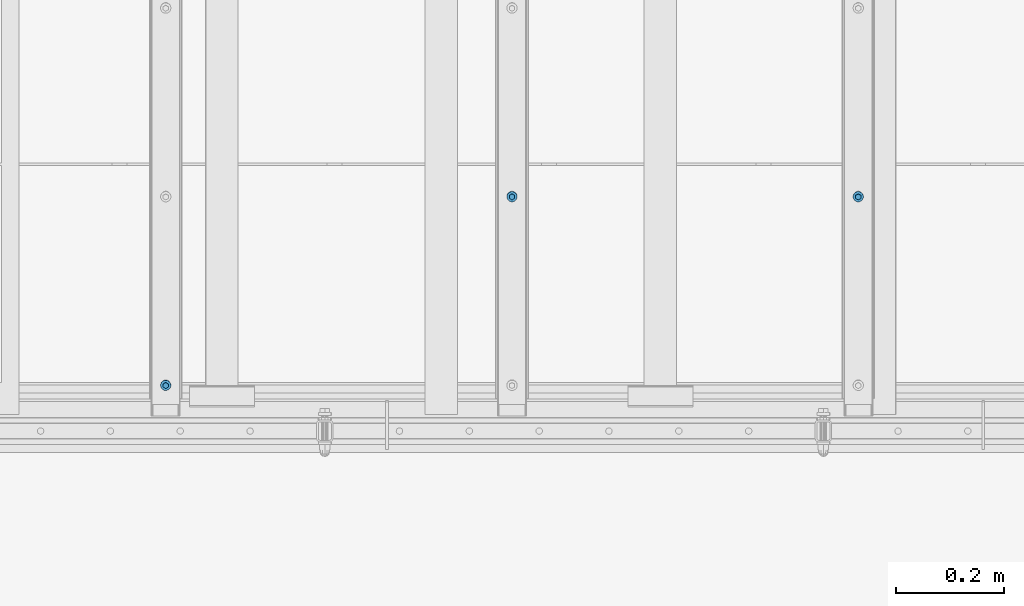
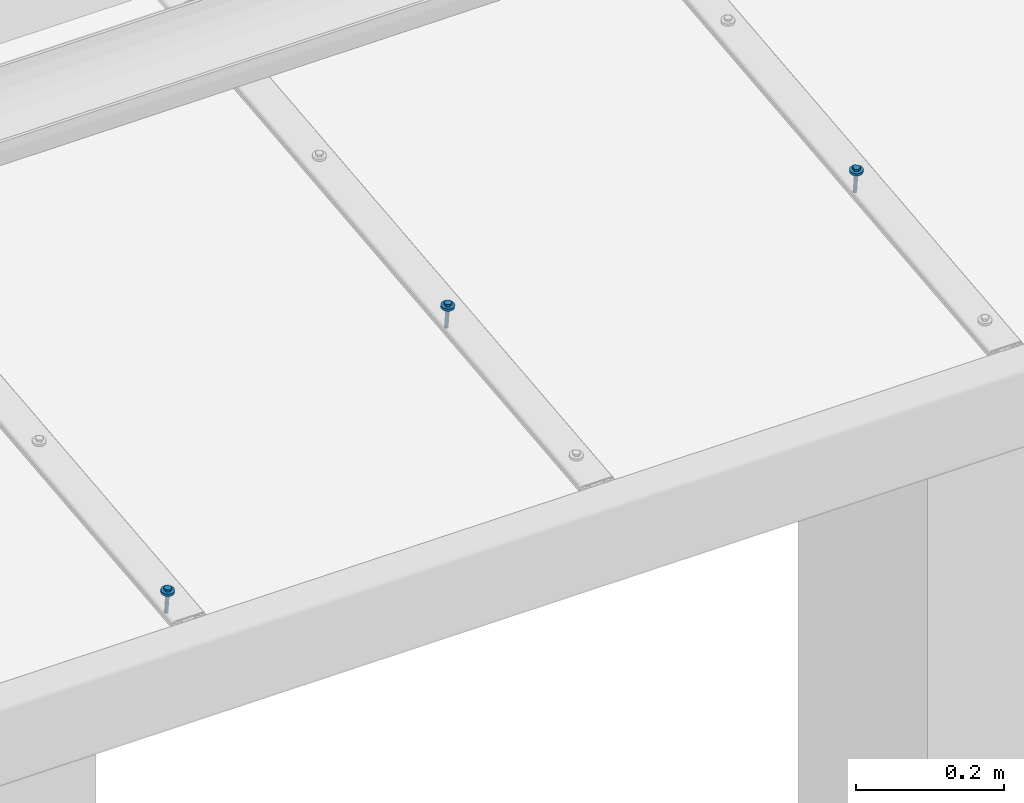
# One storey, part 70 of 162: 3 mechanical fasteners.
"""IFC2X3 building model written with IfcOpenShell, lengths in millimetres."""

import ifcopenshell
import ifcopenshell.guid

model = None  # the IFC model being written
_history = None  # IfcOwnerHistory: only IFC2X3 demands one
_inside = {}  # id of a spatial element -> (the spatial element, [elements in it])
_under = {}  # id of a project, library or spatial element -> (it, [spatial elements below it])
_declared = {}  # id of a project -> (the project, [libraries it declares])
_typed = {}  # id of a type object -> (the type object, [elements of that type])
_made_of = {}  # id of a material, layer set ... -> (it, [elements and type objects made of it])


def new_model(schema):
    """Start an empty IFC model of exactly this schema.

    Asked for "IFC4X3", IfcOpenShell would pick the latest addendum, in which some entities
    have other attributes; the version numbers below select the first issue.
    IFC2X3 requires an IfcOwnerHistory on every rooted entity: one is made here for all.
    """
    global model, _history
    if schema == "IFC4X3":
        model = ifcopenshell.file(schema_version=(4, 3, 0, 0))
    else:
        model = ifcopenshell.file(schema=schema)
    _inside.clear()
    _under.clear()
    _declared.clear()
    _typed.clear()
    _made_of.clear()
    _history = None
    if model.schema == "IFC2X3":
        org = make("IfcOrganization", Name="unknown")
        user = make(
            "IfcPersonAndOrganization",
            ThePerson=make("IfcPerson", FamilyName="unknown"),
            TheOrganization=org,
        )
        app = make(
            "IfcApplication",
            ApplicationDeveloper=org,
            Version="unknown",
            ApplicationFullName="unknown",
            ApplicationIdentifier="unknown",
        )
        _history = make(
            "IfcOwnerHistory",
            OwningUser=user,
            OwningApplication=app,
            ChangeAction="ADDED",
            CreationDate=0,
        )
    return model


def make(cls, **values):
    """One entity of the class cls with the attributes given. An attribute that is None is left unset."""
    return model.create_entity(
        cls, **{name: value for name, value in values.items() if value is not None}
    )


def entity(cls, *values):
    """Any entity or typed value of the class cls, its attributes in the order of the schema. None: left unset."""
    e = model.create_entity(cls)
    for i, value in enumerate(values):
        if value is not None:
            e[i] = value
    return e


def rooted(cls, **values):
    """An entity with a GlobalId (a new one), such as an element, a storey or a relation."""
    return make(cls, GlobalId=ifcopenshell.guid.new(), OwnerHistory=_history, **values)


def si_unit(unit_type, name, prefix=None):
    """IfcSIUnit, for example si_unit("LENGTHUNIT", "METRE", prefix="MILLI")."""
    return make("IfcSIUnit", UnitType=unit_type, Prefix=prefix, Name=name)


def converted_unit(unit_type, name, factor, base, dimensions=None, offset=None):
    """IfcConversionBasedUnit, such as the inch: factor (a typed value) times the base unit."""
    return make(
        "IfcConversionBasedUnit"
        if offset is None
        else "IfcConversionBasedUnitWithOffset",
        ConversionOffset=offset,
        Dimensions=None
        if dimensions is None
        else entity("IfcDimensionalExponents", *dimensions),
        UnitType=unit_type,
        Name=name,
        ConversionFactor=make(
            "IfcMeasureWithUnit", ValueComponent=factor, UnitComponent=base
        ),
    )


def assignment(units):
    """IfcUnitAssignment: the units of a project."""
    return None if units is None else make("IfcUnitAssignment", Units=units)


def point(xyz):
    """IfcCartesianPoint."""
    return None if xyz is None else make("IfcCartesianPoint", Coordinates=xyz)


def direction(xyz):
    """IfcDirection."""
    return None if xyz is None else make("IfcDirection", DirectionRatios=xyz)


def frame(location, z_axis=None, x_axis=None):
    """IfcAxis2Placement3D, a coordinate frame: its origin and axes. An axis left out is left unset."""
    return make(
        "IfcAxis2Placement3D",
        Location=point(location),
        Axis=direction(z_axis),
        RefDirection=direction(x_axis),
    )


def origin_with_axes():
    """The frame at (0, 0, 0) with the z axis (0, 0, 1) and the x axis (1, 0, 0) written out."""
    return frame((0.0, 0.0, 0.0), z_axis=(0.0, 0.0, 1.0), x_axis=(1.0, 0.0, 0.0))


def place(relative_to, where):
    """IfcLocalPlacement: puts the frame where relative to a parent placement (None: the world)."""
    return make(
        "IfcLocalPlacement", PlacementRelTo=relative_to, RelativePlacement=where
    )


def context(
    kind, dimensions, precision=None, world=None, true_north=None, identifier=None
):
    """IfcGeometricRepresentationContext, for example the 3D "Model" context."""
    return make(
        "IfcGeometricRepresentationContext",
        ContextIdentifier=identifier,
        ContextType=kind,
        CoordinateSpaceDimension=dimensions,
        Precision=precision,
        WorldCoordinateSystem=world,
        TrueNorth=true_north,
    )


def project(units=None, contexts=None):
    """IfcProject with its units and contexts."""
    return rooted(
        "IfcProject",
        Name="project",
        RepresentationContexts=contexts,
        UnitsInContext=assignment(units),
    )


def spatial(cls, under=None, at=None, **own):
    """A site, building, storey or space (cls), placed at a placement, below another one or the project."""
    s = rooted(cls, ObjectPlacement=at, **own)
    if under is not None:
        _under.setdefault(under.id(), (under, []))[1].append(s)
    return s


def faces_of(points, faces, orient=None, outer=None):
    """IfcFace entities. A face is a list of loops; a loop is a list of indices into points, from 0.

    orient and outer hold one flag for each loop. By default every Orientation is true, the
    first loop of a face is its IfcFaceOuterBound and the others are IfcFaceBound.
    """
    made = []
    for i, loops in enumerate(faces):
        bounds = []
        for j, loop in enumerate(loops):
            is_outer = j == 0 if outer is None else outer[i][j]
            bounds.append(
                make(
                    "IfcFaceOuterBound" if is_outer else "IfcFaceBound",
                    Bound=make("IfcPolyLoop", Polygon=[points[k] for k in loop]),
                    Orientation=True if orient is None else orient[i][j],
                )
            )
        made.append(make("IfcFace", Bounds=bounds))
    return made


def faceted_brep(points, faces, orient=None, outer=None, voids=None):
    """IfcFacetedBrep: a solid bounded by flat faces; with voids (closed shells), ...WithVoids."""
    shared = [point(p) for p in points]
    hull = make("IfcClosedShell", CfsFaces=faces_of(shared, faces, orient, outer))
    if voids is None:
        return make("IfcFacetedBrep", Outer=hull)
    return make(
        "IfcFacetedBrepWithVoids",
        Outer=hull,
        Voids=[
            make(cls, CfsFaces=faces_of(shared, fs, o, b)) for cls, fs, o, b in voids
        ],
    )


def shape(context_of_items, identifier, shape_type, items):
    """IfcShapeRepresentation: the items that make up one representation, for example the "Body"."""
    return make(
        "IfcShapeRepresentation",
        ContextOfItems=context_of_items,
        RepresentationIdentifier=identifier,
        RepresentationType=shape_type,
        Items=items,
    )


def made_of(thing, what):
    """Note that an element or type object is made of a material, layer set ...; save() writes the relation."""
    if what is not None:
        _made_of.setdefault(what.id(), (what, []))[1].append(thing)
    return thing


def element(
    cls,
    number,
    at=None,
    inside=None,
    cuts=None,
    type_object=None,
    material=None,
    context=None,
    identifier="Body",
    shape_type=None,
    held_by="IfcProductDefinitionShape",
    body=None,
    shapes=None,
    **own,
):
    """One element of the class cls, such as IfcWall. Its Tag is "e" and its number.

    at: its placement. inside: the storey or other place that contains it. cuts: it is an
    opening in that element (IfcRelVoidsElement). A single representation is given by context,
    identifier, shape_type and body (its items); several are given by shapes. held_by: the class
    of the entity that holds the representations. save() writes the other relations.
    """
    e = rooted(cls, Tag="e%d" % number, ObjectPlacement=at, **own)
    if body is not None:
        shapes = [shape(context, identifier, shape_type, body)]
    if shapes is not None:
        e.Representation = make(held_by, Representations=shapes)
    if inside is not None:
        _inside.setdefault(inside.id(), (inside, []))[1].append(e)
    if cuts is not None:
        rooted(
            "IfcRelVoidsElement", RelatingBuildingElement=cuts, RelatedOpeningElement=e
        )
    if type_object is not None:
        _typed.setdefault(type_object.id(), (type_object, []))[1].append(e)
    return made_of(e, material)


def aggregate(whole, parts):
    """IfcRelAggregates: a whole, such as a stair, and the parts it consists of."""
    return rooted("IfcRelAggregates", RelatingObject=whole, RelatedObjects=parts)


def save(model, path):
    """Write the relations noted so far, then the file.

    IfcRelAggregates (storeys below a building ...), IfcRelContainedInSpatialStructure (elements
    in a storey), IfcRelDefinesByType, IfcRelAssociatesMaterial and IfcRelDeclares: one each for
    every whole, place, type object, material and project.
    """
    for whole, parts in _under.values():
        aggregate(whole, parts)
    for where, things in _inside.values():
        rooted(
            "IfcRelContainedInSpatialStructure",
            RelatedElements=things,
            RelatingStructure=where,
        )
    for kind, things in _typed.values():
        rooted("IfcRelDefinesByType", RelatedObjects=things, RelatingType=kind)
    for what, things in _made_of.values():
        rooted("IfcRelAssociatesMaterial", RelatedObjects=things, RelatingMaterial=what)
    for by, libraries in _declared.values():
        rooted("IfcRelDeclares", RelatingContext=by, RelatedDefinitions=libraries)
    model.write(path)


model = new_model("IFC2X3")

# Units and contexts
model_context = context("Model", 3, precision=1e-09, world=origin_with_axes())
ifc_project = project(units=[si_unit("LENGTHUNIT", "METRE", prefix="MILLI"), si_unit("AREAUNIT", "SQUARE_METRE"), si_unit("VOLUMEUNIT", "CUBIC_METRE"), converted_unit("PLANEANGLEUNIT", "DEGREE", entity("IfcPlaneAngleMeasure", 0.01745329), si_unit("PLANEANGLEUNIT", "RADIAN"), dimensions=[0, 0, 0, 0, 0, 0, 0])], contexts=[model_context])

# Site, building, storey
site_placement = place(None, origin_with_axes())
site = spatial("IfcSite", under=ifc_project, at=site_placement, Name="Hermannstra?e 1a, 60318 Frankfurt", CompositionType="ELEMENT")
building_placement = place(site_placement, origin_with_axes())
building = spatial("IfcBuilding", under=site, at=building_placement, Name="Struktur 1", CompositionType="ELEMENT")
storey_placement = place(building_placement, origin_with_axes())
storey = spatial("IfcBuildingStorey", under=building, at=storey_placement, Name="Default Storey", CompositionType="ELEMENT", Elevation=0.0)

# Mechanical fasteners
mechanical_fastener_1_placement = place(None, origin_with_axes())
element("IfcMechanicalFastener", 1, at=mechanical_fastener_1_placement, inside=storey, ObjectType="-", NominalDiameter=6.0, NominalLength=40.0, context=model_context, shape_type="Brep", body=[
    faceted_brep([(3859.309364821, 1947.952940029, 17450.481034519), (3859.309364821, 1948.371053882, 17446.502946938), (3859.491904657, 1946.527848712, 17446.309218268), (3859.491904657, 1946.109734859, 17450.28730585), (3860.032509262, 1944.755476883, 17446.122934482), (3860.032509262, 1944.33736303, 17450.101022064), (3860.910403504, 1943.122049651, 17445.951254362), (3860.910403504, 1942.703935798, 17449.929341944), (3862.0918504, 1941.690338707, 17445.800775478), (3862.0918504, 1941.272224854, 17449.77886306), (3863.531447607, 1940.515363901, 17445.67728065), (3863.531447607, 1940.097250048, 17449.655368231), (3865.173872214, 1939.642278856, 17445.585515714), (3865.173872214, 1939.224165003, 17449.563603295), (3866.956006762, 1939.10463574, 17445.529007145), (3866.956006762, 1938.686521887, 17449.507094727), (3868.809364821, 1938.923095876, 17445.509926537), (3868.809364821, 1938.504982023, 17449.488014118), (3870.66272288, 1939.10463574, 17445.529007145), (3870.66272288, 1938.686521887, 17449.507094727), (3872.444857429, 1939.642278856, 17445.585515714), (3872.444857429, 1939.224165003, 17449.563603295), (3874.087282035, 1940.515363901, 17445.67728065), (3874.087282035, 1940.097250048, 17449.655368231), (3875.526879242, 1941.690338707, 17445.800775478), (3875.526879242, 1941.272224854, 17449.77886306), (3876.708326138, 1943.122049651, 17445.951254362), (3876.708326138, 1942.703935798, 17449.929341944), (3877.58622038, 1944.755476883, 17446.122934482), (3877.58622038, 1944.33736303, 17450.101022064), (3878.126824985, 1946.527848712, 17446.309218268), (3878.126824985, 1946.109734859, 17450.28730585), (3878.309364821, 1948.371053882, 17446.502946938), (3878.309364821, 1947.952940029, 17450.481034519), (3878.126824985, 1950.214259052, 17446.696675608), (3878.126824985, 1949.796145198, 17450.674763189), (3877.58622038, 1951.98663088, 17446.882959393), (3877.58622038, 1951.568517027, 17450.861046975), (3876.708326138, 1953.620058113, 17447.054639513), (3876.708326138, 1953.20194426, 17451.032727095), (3875.526879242, 1955.051769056, 17447.205118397), (3875.526879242, 1954.633655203, 17451.183205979), (3874.087282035, 1956.226743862, 17447.328613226), (3874.087282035, 1955.808630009, 17451.306700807), (3872.444857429, 1957.099828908, 17447.420378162), (3872.444857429, 1956.681715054, 17451.398465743), (3870.66272288, 1957.637472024, 17447.47688673), (3870.66272288, 1957.219358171, 17451.454974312), (3868.809364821, 1957.819011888, 17447.495967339), (3868.809364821, 1957.400898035, 17451.47405492), (3866.956006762, 1957.637472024, 17447.47688673), (3866.956006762, 1957.219358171, 17451.454974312), (3865.173872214, 1957.099828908, 17447.420378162), (3865.173872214, 1956.681715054, 17451.398465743), (3863.531447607, 1956.226743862, 17447.328613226), (3863.531447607, 1955.808630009, 17451.306700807), (3862.0918504, 1955.051769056, 17447.205118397), (3862.0918504, 1954.633655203, 17451.183205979), (3860.910403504, 1953.620058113, 17447.054639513), (3860.910403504, 1953.20194426, 17451.032727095), (3860.032509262, 1951.98663088, 17446.882959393), (3860.032509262, 1951.568517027, 17450.861046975), (3859.491904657, 1950.214259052, 17446.696675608), (3859.491904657, 1949.796145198, 17450.674763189)], [[[0, 1, 2, 3]], [[3, 2, 4, 5]], [[5, 4, 6, 7]], [[7, 6, 8, 9]], [[9, 8, 10, 11]], [[11, 10, 12, 13]], [[13, 12, 14, 15]], [[15, 14, 16, 17]], [[17, 16, 18, 19]], [[19, 18, 20, 21]], [[21, 20, 22, 23]], [[23, 22, 24, 25]], [[25, 24, 26, 27]], [[27, 26, 28, 29]], [[29, 28, 30, 31]], [[31, 30, 32, 33]], [[33, 32, 34, 35]], [[35, 34, 36, 37]], [[37, 36, 38, 39]], [[39, 38, 40, 41]], [[41, 40, 42, 43]], [[43, 42, 44, 45]], [[45, 44, 46, 47]], [[47, 46, 48, 49]], [[49, 48, 50, 51]], [[51, 50, 52, 53]], [[53, 52, 54, 55]], [[55, 54, 56, 57]], [[57, 56, 58, 59]], [[59, 58, 60, 61]], [[61, 60, 62, 63]], [[63, 62, 1, 0]], [[0, 3, 5, 7, 9, 11, 13, 15, 17, 19, 21, 23, 25, 27, 29, 31, 33, 35, 37, 39, 41, 43, 45, 47, 49, 51, 53, 55, 57, 59, 61, 63]], [[1, 62, 60, 58, 56, 54, 52, 50, 48, 46, 44, 42, 40, 38, 36, 34, 32, 30, 28, 26, 24, 22, 20, 18, 16, 14, 12, 10, 8, 6, 4, 2]]]),
    faceted_brep([(3873.594155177, 1945.205573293, 17450.19227464), (3873.594155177, 1944.78745944, 17454.170362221), (3868.809364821, 1942.040092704, 17453.881602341), (3868.809364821, 1942.458206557, 17449.90351476), (3864.024574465, 1944.78745944, 17454.170362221), (3864.024574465, 1945.205573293, 17450.19227464), (3864.024574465, 1950.282192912, 17454.747881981), (3864.024574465, 1950.700306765, 17450.769794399), (3868.809364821, 1953.029559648, 17455.03664186), (3868.809364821, 1953.447673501, 17451.058554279), (3873.594155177, 1950.282192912, 17454.747881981), (3873.594155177, 1950.700306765, 17450.769794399)], [[[0, 1, 2, 3]], [[3, 2, 4, 5]], [[5, 4, 6, 7]], [[7, 6, 8, 9]], [[9, 8, 10, 11]], [[11, 10, 1, 0]], [[4, 2, 1, 10, 8, 6]], [[0, 3, 5, 7, 9, 11]]]),
    faceted_brep([(3865.809364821, 1948.371053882, 17446.502946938), (3865.809364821, 1951.715964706, 17414.678246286), (3866.037726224, 1950.574203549, 17414.558242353), (3866.037726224, 1947.229292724, 17446.382943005), (3866.688044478, 1949.606265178, 17414.45650793), (3866.688044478, 1946.261354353, 17446.281208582), (3867.661314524, 1948.959509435, 17414.388531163), (3867.661314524, 1945.61459861, 17446.213231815), (3868.809364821, 1948.73239902, 17414.364660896), (3868.809364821, 1945.387488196, 17446.189361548), (3869.957415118, 1948.959509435, 17414.388531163), (3869.957415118, 1945.61459861, 17446.213231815), (3870.930685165, 1949.606265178, 17414.45650793), (3870.930685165, 1946.261354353, 17446.281208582), (3871.581003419, 1950.574203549, 17414.558242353), (3871.581003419, 1947.229292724, 17446.382943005), (3871.809364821, 1951.715964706, 17414.678246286), (3871.809364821, 1948.371053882, 17446.502946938), (3871.581003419, 1952.857725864, 17414.798250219), (3871.581003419, 1949.512815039, 17446.622950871), (3870.930685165, 1953.825664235, 17414.899984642), (3870.930685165, 1950.480753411, 17446.724685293), (3869.957415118, 1954.472419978, 17414.967961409), (3869.957415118, 1951.127509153, 17446.792662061), (3868.809364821, 1954.699530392, 17414.991831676), (3868.809364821, 1951.354619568, 17446.816532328), (3867.661314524, 1954.472419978, 17414.967961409), (3867.661314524, 1951.127509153, 17446.792662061), (3866.688044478, 1953.825664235, 17414.899984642), (3866.688044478, 1950.480753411, 17446.724685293), (3866.037726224, 1952.857725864, 17414.798250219), (3866.037726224, 1949.512815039, 17446.622950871)], [[[0, 1, 2, 3]], [[3, 2, 4, 5]], [[5, 4, 6, 7]], [[7, 6, 8, 9]], [[9, 8, 10, 11]], [[11, 10, 12, 13]], [[13, 12, 14, 15]], [[15, 14, 16, 17]], [[17, 16, 18, 19]], [[19, 18, 20, 21]], [[21, 20, 22, 23]], [[23, 22, 24, 25]], [[25, 24, 26, 27]], [[27, 26, 28, 29]], [[29, 28, 30, 31]], [[31, 30, 1, 0]], [[0, 3, 5, 7, 9, 11, 13, 15, 17, 19, 21, 23, 25, 27, 29, 31]], [[1, 30, 28, 26, 24, 22, 20, 18, 16, 14, 12, 10, 8, 6, 4, 2]]]),
    faceted_brep([(3865.809364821, 1951.715964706, 17414.678246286), (3865.809364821, 1952.134078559, 17410.700158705), (3866.037726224, 1950.992317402, 17410.580154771), (3866.037726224, 1950.574203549, 17414.558242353), (3866.688044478, 1950.024379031, 17410.478420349), (3866.688044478, 1949.606265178, 17414.45650793), (3867.661314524, 1949.377623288, 17410.410443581), (3867.661314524, 1948.959509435, 17414.388531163), (3868.809364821, 1949.150512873, 17410.386573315), (3868.809364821, 1948.73239902, 17414.364660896), (3869.957415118, 1949.377623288, 17410.410443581), (3869.957415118, 1948.959509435, 17414.388531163), (3870.930685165, 1950.024379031, 17410.478420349), (3870.930685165, 1949.606265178, 17414.45650793), (3871.581003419, 1950.992317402, 17410.580154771), (3871.581003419, 1950.574203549, 17414.558242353), (3871.809364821, 1952.134078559, 17410.700158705), (3871.809364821, 1951.715964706, 17414.678246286), (3871.581003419, 1953.275839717, 17410.820162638), (3871.581003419, 1952.857725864, 17414.798250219), (3870.930685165, 1954.243778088, 17410.92189706), (3870.930685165, 1953.825664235, 17414.899984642), (3869.957415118, 1954.890533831, 17410.989873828), (3869.957415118, 1954.472419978, 17414.967961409), (3868.809364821, 1955.117644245, 17411.013744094), (3868.809364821, 1954.699530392, 17414.991831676), (3867.661314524, 1954.890533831, 17410.989873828), (3867.661314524, 1954.472419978, 17414.967961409), (3866.688044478, 1954.243778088, 17410.92189706), (3866.688044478, 1953.825664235, 17414.899984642), (3866.037726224, 1953.275839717, 17410.820162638), (3866.037726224, 1952.857725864, 17414.798250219)], [[[0, 1, 2, 3]], [[3, 2, 4, 5]], [[5, 4, 6, 7]], [[7, 6, 8, 9]], [[9, 8, 10, 11]], [[11, 10, 12, 13]], [[13, 12, 14, 15]], [[15, 14, 16, 17]], [[17, 16, 18, 19]], [[19, 18, 20, 21]], [[21, 20, 22, 23]], [[23, 22, 24, 25]], [[25, 24, 26, 27]], [[27, 26, 28, 29]], [[29, 28, 30, 31]], [[31, 30, 1, 0]], [[0, 3, 5, 7, 9, 11, 13, 15, 17, 19, 21, 23, 25, 27, 29, 31]], [[1, 30, 28, 26, 24, 22, 20, 18, 16, 14, 12, 10, 8, 6, 4, 2]]]),
])
mechanical_fastener_2_placement = place(None, origin_with_axes())
element("IfcMechanicalFastener", 2, at=mechanical_fastener_2_placement, inside=storey, ObjectType="-", NominalDiameter=6.0, NominalLength=40.0, context=model_context, shape_type="Brep", body=[
    faceted_brep([(4498.309364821, 1947.952940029, 17450.481034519), (4498.309364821, 1948.371053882, 17446.502946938), (4498.491904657, 1946.527848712, 17446.309218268), (4498.491904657, 1946.109734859, 17450.28730585), (4499.032509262, 1944.755476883, 17446.122934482), (4499.032509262, 1944.33736303, 17450.101022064), (4499.910403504, 1943.122049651, 17445.951254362), (4499.910403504, 1942.703935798, 17449.929341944), (4501.0918504, 1941.690338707, 17445.800775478), (4501.0918504, 1941.272224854, 17449.77886306), (4502.531447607, 1940.515363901, 17445.67728065), (4502.531447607, 1940.097250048, 17449.655368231), (4504.173872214, 1939.642278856, 17445.585515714), (4504.173872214, 1939.224165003, 17449.563603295), (4505.956006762, 1939.10463574, 17445.529007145), (4505.956006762, 1938.686521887, 17449.507094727), (4507.809364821, 1938.923095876, 17445.509926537), (4507.809364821, 1938.504982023, 17449.488014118), (4509.66272288, 1939.10463574, 17445.529007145), (4509.66272288, 1938.686521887, 17449.507094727), (4511.444857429, 1939.642278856, 17445.585515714), (4511.444857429, 1939.224165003, 17449.563603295), (4513.087282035, 1940.515363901, 17445.67728065), (4513.087282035, 1940.097250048, 17449.655368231), (4514.526879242, 1941.690338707, 17445.800775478), (4514.526879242, 1941.272224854, 17449.77886306), (4515.708326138, 1943.122049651, 17445.951254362), (4515.708326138, 1942.703935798, 17449.929341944), (4516.58622038, 1944.755476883, 17446.122934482), (4516.58622038, 1944.33736303, 17450.101022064), (4517.126824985, 1946.527848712, 17446.309218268), (4517.126824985, 1946.109734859, 17450.28730585), (4517.309364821, 1948.371053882, 17446.502946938), (4517.309364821, 1947.952940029, 17450.481034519), (4517.126824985, 1950.214259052, 17446.696675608), (4517.126824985, 1949.796145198, 17450.674763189), (4516.58622038, 1951.98663088, 17446.882959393), (4516.58622038, 1951.568517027, 17450.861046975), (4515.708326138, 1953.620058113, 17447.054639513), (4515.708326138, 1953.20194426, 17451.032727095), (4514.526879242, 1955.051769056, 17447.205118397), (4514.526879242, 1954.633655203, 17451.183205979), (4513.087282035, 1956.226743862, 17447.328613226), (4513.087282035, 1955.808630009, 17451.306700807), (4511.444857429, 1957.099828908, 17447.420378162), (4511.444857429, 1956.681715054, 17451.398465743), (4509.66272288, 1957.637472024, 17447.47688673), (4509.66272288, 1957.219358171, 17451.454974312), (4507.809364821, 1957.819011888, 17447.495967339), (4507.809364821, 1957.400898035, 17451.47405492), (4505.956006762, 1957.637472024, 17447.47688673), (4505.956006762, 1957.219358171, 17451.454974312), (4504.173872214, 1957.099828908, 17447.420378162), (4504.173872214, 1956.681715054, 17451.398465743), (4502.531447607, 1956.226743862, 17447.328613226), (4502.531447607, 1955.808630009, 17451.306700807), (4501.0918504, 1955.051769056, 17447.205118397), (4501.0918504, 1954.633655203, 17451.183205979), (4499.910403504, 1953.620058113, 17447.054639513), (4499.910403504, 1953.20194426, 17451.032727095), (4499.032509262, 1951.98663088, 17446.882959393), (4499.032509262, 1951.568517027, 17450.861046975), (4498.491904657, 1950.214259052, 17446.696675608), (4498.491904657, 1949.796145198, 17450.674763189)], [[[0, 1, 2, 3]], [[3, 2, 4, 5]], [[5, 4, 6, 7]], [[7, 6, 8, 9]], [[9, 8, 10, 11]], [[11, 10, 12, 13]], [[13, 12, 14, 15]], [[15, 14, 16, 17]], [[17, 16, 18, 19]], [[19, 18, 20, 21]], [[21, 20, 22, 23]], [[23, 22, 24, 25]], [[25, 24, 26, 27]], [[27, 26, 28, 29]], [[29, 28, 30, 31]], [[31, 30, 32, 33]], [[33, 32, 34, 35]], [[35, 34, 36, 37]], [[37, 36, 38, 39]], [[39, 38, 40, 41]], [[41, 40, 42, 43]], [[43, 42, 44, 45]], [[45, 44, 46, 47]], [[47, 46, 48, 49]], [[49, 48, 50, 51]], [[51, 50, 52, 53]], [[53, 52, 54, 55]], [[55, 54, 56, 57]], [[57, 56, 58, 59]], [[59, 58, 60, 61]], [[61, 60, 62, 63]], [[63, 62, 1, 0]], [[0, 3, 5, 7, 9, 11, 13, 15, 17, 19, 21, 23, 25, 27, 29, 31, 33, 35, 37, 39, 41, 43, 45, 47, 49, 51, 53, 55, 57, 59, 61, 63]], [[1, 62, 60, 58, 56, 54, 52, 50, 48, 46, 44, 42, 40, 38, 36, 34, 32, 30, 28, 26, 24, 22, 20, 18, 16, 14, 12, 10, 8, 6, 4, 2]]]),
    faceted_brep([(4512.594155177, 1945.205573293, 17450.19227464), (4512.594155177, 1944.78745944, 17454.170362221), (4507.809364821, 1942.040092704, 17453.881602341), (4507.809364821, 1942.458206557, 17449.90351476), (4503.024574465, 1944.78745944, 17454.170362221), (4503.024574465, 1945.205573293, 17450.19227464), (4503.024574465, 1950.282192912, 17454.747881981), (4503.024574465, 1950.700306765, 17450.769794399), (4507.809364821, 1953.029559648, 17455.03664186), (4507.809364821, 1953.447673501, 17451.058554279), (4512.594155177, 1950.282192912, 17454.747881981), (4512.594155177, 1950.700306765, 17450.769794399)], [[[0, 1, 2, 3]], [[3, 2, 4, 5]], [[5, 4, 6, 7]], [[7, 6, 8, 9]], [[9, 8, 10, 11]], [[11, 10, 1, 0]], [[4, 2, 1, 10, 8, 6]], [[0, 3, 5, 7, 9, 11]]]),
    faceted_brep([(4504.809364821, 1948.371053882, 17446.502946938), (4504.809364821, 1951.715964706, 17414.678246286), (4505.037726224, 1950.574203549, 17414.558242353), (4505.037726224, 1947.229292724, 17446.382943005), (4505.688044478, 1949.606265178, 17414.45650793), (4505.688044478, 1946.261354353, 17446.281208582), (4506.661314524, 1948.959509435, 17414.388531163), (4506.661314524, 1945.61459861, 17446.213231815), (4507.809364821, 1948.73239902, 17414.364660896), (4507.809364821, 1945.387488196, 17446.189361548), (4508.957415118, 1948.959509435, 17414.388531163), (4508.957415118, 1945.61459861, 17446.213231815), (4509.930685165, 1949.606265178, 17414.45650793), (4509.930685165, 1946.261354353, 17446.281208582), (4510.581003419, 1950.574203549, 17414.558242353), (4510.581003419, 1947.229292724, 17446.382943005), (4510.809364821, 1951.715964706, 17414.678246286), (4510.809364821, 1948.371053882, 17446.502946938), (4510.581003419, 1952.857725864, 17414.798250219), (4510.581003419, 1949.512815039, 17446.622950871), (4509.930685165, 1953.825664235, 17414.899984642), (4509.930685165, 1950.480753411, 17446.724685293), (4508.957415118, 1954.472419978, 17414.967961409), (4508.957415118, 1951.127509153, 17446.792662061), (4507.809364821, 1954.699530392, 17414.991831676), (4507.809364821, 1951.354619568, 17446.816532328), (4506.661314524, 1954.472419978, 17414.967961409), (4506.661314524, 1951.127509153, 17446.792662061), (4505.688044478, 1953.825664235, 17414.899984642), (4505.688044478, 1950.480753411, 17446.724685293), (4505.037726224, 1952.857725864, 17414.798250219), (4505.037726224, 1949.512815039, 17446.622950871)], [[[0, 1, 2, 3]], [[3, 2, 4, 5]], [[5, 4, 6, 7]], [[7, 6, 8, 9]], [[9, 8, 10, 11]], [[11, 10, 12, 13]], [[13, 12, 14, 15]], [[15, 14, 16, 17]], [[17, 16, 18, 19]], [[19, 18, 20, 21]], [[21, 20, 22, 23]], [[23, 22, 24, 25]], [[25, 24, 26, 27]], [[27, 26, 28, 29]], [[29, 28, 30, 31]], [[31, 30, 1, 0]], [[0, 3, 5, 7, 9, 11, 13, 15, 17, 19, 21, 23, 25, 27, 29, 31]], [[1, 30, 28, 26, 24, 22, 20, 18, 16, 14, 12, 10, 8, 6, 4, 2]]]),
    faceted_brep([(4504.809364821, 1951.715964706, 17414.678246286), (4504.809364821, 1952.134078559, 17410.700158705), (4505.037726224, 1950.992317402, 17410.580154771), (4505.037726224, 1950.574203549, 17414.558242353), (4505.688044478, 1950.024379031, 17410.478420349), (4505.688044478, 1949.606265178, 17414.45650793), (4506.661314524, 1949.377623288, 17410.410443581), (4506.661314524, 1948.959509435, 17414.388531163), (4507.809364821, 1949.150512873, 17410.386573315), (4507.809364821, 1948.73239902, 17414.364660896), (4508.957415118, 1949.377623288, 17410.410443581), (4508.957415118, 1948.959509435, 17414.388531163), (4509.930685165, 1950.024379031, 17410.478420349), (4509.930685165, 1949.606265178, 17414.45650793), (4510.581003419, 1950.992317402, 17410.580154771), (4510.581003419, 1950.574203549, 17414.558242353), (4510.809364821, 1952.134078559, 17410.700158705), (4510.809364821, 1951.715964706, 17414.678246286), (4510.581003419, 1953.275839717, 17410.820162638), (4510.581003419, 1952.857725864, 17414.798250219), (4509.930685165, 1954.243778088, 17410.92189706), (4509.930685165, 1953.825664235, 17414.899984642), (4508.957415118, 1954.890533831, 17410.989873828), (4508.957415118, 1954.472419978, 17414.967961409), (4507.809364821, 1955.117644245, 17411.013744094), (4507.809364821, 1954.699530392, 17414.991831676), (4506.661314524, 1954.890533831, 17410.989873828), (4506.661314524, 1954.472419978, 17414.967961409), (4505.688044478, 1954.243778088, 17410.92189706), (4505.688044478, 1953.825664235, 17414.899984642), (4505.037726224, 1953.275839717, 17410.820162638), (4505.037726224, 1952.857725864, 17414.798250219)], [[[0, 1, 2, 3]], [[3, 2, 4, 5]], [[5, 4, 6, 7]], [[7, 6, 8, 9]], [[9, 8, 10, 11]], [[11, 10, 12, 13]], [[13, 12, 14, 15]], [[15, 14, 16, 17]], [[17, 16, 18, 19]], [[19, 18, 20, 21]], [[21, 20, 22, 23]], [[23, 22, 24, 25]], [[25, 24, 26, 27]], [[27, 26, 28, 29]], [[29, 28, 30, 31]], [[31, 30, 1, 0]], [[0, 3, 5, 7, 9, 11, 13, 15, 17, 19, 21, 23, 25, 27, 29, 31]], [[1, 30, 28, 26, 24, 22, 20, 18, 16, 14, 12, 10, 8, 6, 4, 2]]]),
])
mechanical_fastener_3_placement = place(None, origin_with_axes())
element("IfcMechanicalFastener", 3, at=mechanical_fastener_3_placement, inside=storey, ObjectType="-", NominalDiameter=6.0, NominalLength=40.0, context=model_context, shape_type="Brep", body=[
    faceted_brep([(3220.309364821, 1599.87027665, 17413.896072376), (3220.309364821, 1600.288390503, 17409.917984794), (3220.491904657, 1598.445185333, 17409.724256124), (3220.491904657, 1598.02707148, 17413.702343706), (3221.032509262, 1596.672813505, 17409.537972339), (3221.032509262, 1596.254699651, 17413.51605992), (3221.910403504, 1595.039386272, 17409.366292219), (3221.910403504, 1594.621272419, 17413.3443798), (3223.0918504, 1593.607675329, 17409.215813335), (3223.0918504, 1593.189561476, 17413.193900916), (3224.531447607, 1592.432700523, 17409.092318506), (3224.531447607, 1592.01458667, 17413.070406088), (3226.173872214, 1591.559615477, 17409.00055357), (3226.173872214, 1591.141501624, 17412.978641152), (3227.956006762, 1591.021972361, 17408.944045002), (3227.956006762, 1590.603858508, 17412.922132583), (3229.809364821, 1590.840432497, 17408.924964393), (3229.809364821, 1590.422318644, 17412.903051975), (3231.66272288, 1591.021972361, 17408.944045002), (3231.66272288, 1590.603858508, 17412.922132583), (3233.444857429, 1591.559615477, 17409.00055357), (3233.444857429, 1591.141501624, 17412.978641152), (3235.087282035, 1592.432700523, 17409.092318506), (3235.087282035, 1592.01458667, 17413.070406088), (3236.526879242, 1593.607675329, 17409.215813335), (3236.526879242, 1593.189561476, 17413.193900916), (3237.708326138, 1595.039386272, 17409.366292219), (3237.708326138, 1594.621272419, 17413.3443798), (3238.58622038, 1596.672813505, 17409.537972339), (3238.58622038, 1596.254699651, 17413.51605992), (3239.126824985, 1598.445185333, 17409.724256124), (3239.126824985, 1598.02707148, 17413.702343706), (3239.309364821, 1600.288390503, 17409.917984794), (3239.309364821, 1599.87027665, 17413.896072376), (3239.126824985, 1602.131595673, 17410.111713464), (3239.126824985, 1601.71348182, 17414.089801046), (3238.58622038, 1603.903967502, 17410.29799725), (3238.58622038, 1603.485853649, 17414.276084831), (3237.708326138, 1605.537394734, 17410.46967737), (3237.708326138, 1605.119280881, 17414.447764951), (3236.526879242, 1606.969105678, 17410.620156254), (3236.526879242, 1606.550991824, 17414.598243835), (3235.087282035, 1608.144080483, 17410.743651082), (3235.087282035, 1607.72596663, 17414.721738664), (3233.444857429, 1609.017165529, 17410.835416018), (3233.444857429, 1608.599051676, 17414.8135036), (3231.66272288, 1609.554808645, 17410.891924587), (3231.66272288, 1609.136694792, 17414.870012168), (3229.809364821, 1609.736348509, 17410.911005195), (3229.809364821, 1609.318234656, 17414.889092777), (3227.956006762, 1609.554808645, 17410.891924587), (3227.956006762, 1609.136694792, 17414.870012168), (3226.173872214, 1609.017165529, 17410.835416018), (3226.173872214, 1608.599051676, 17414.8135036), (3224.531447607, 1608.144080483, 17410.743651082), (3224.531447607, 1607.72596663, 17414.721738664), (3223.0918504, 1606.969105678, 17410.620156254), (3223.0918504, 1606.550991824, 17414.598243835), (3221.910403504, 1605.537394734, 17410.46967737), (3221.910403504, 1605.119280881, 17414.447764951), (3221.032509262, 1603.903967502, 17410.29799725), (3221.032509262, 1603.485853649, 17414.276084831), (3220.491904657, 1602.131595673, 17410.111713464), (3220.491904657, 1601.71348182, 17414.089801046)], [[[0, 1, 2, 3]], [[3, 2, 4, 5]], [[5, 4, 6, 7]], [[7, 6, 8, 9]], [[9, 8, 10, 11]], [[11, 10, 12, 13]], [[13, 12, 14, 15]], [[15, 14, 16, 17]], [[17, 16, 18, 19]], [[19, 18, 20, 21]], [[21, 20, 22, 23]], [[23, 22, 24, 25]], [[25, 24, 26, 27]], [[27, 26, 28, 29]], [[29, 28, 30, 31]], [[31, 30, 32, 33]], [[33, 32, 34, 35]], [[35, 34, 36, 37]], [[37, 36, 38, 39]], [[39, 38, 40, 41]], [[41, 40, 42, 43]], [[43, 42, 44, 45]], [[45, 44, 46, 47]], [[47, 46, 48, 49]], [[49, 48, 50, 51]], [[51, 50, 52, 53]], [[53, 52, 54, 55]], [[55, 54, 56, 57]], [[57, 56, 58, 59]], [[59, 58, 60, 61]], [[61, 60, 62, 63]], [[63, 62, 1, 0]], [[0, 3, 5, 7, 9, 11, 13, 15, 17, 19, 21, 23, 25, 27, 29, 31, 33, 35, 37, 39, 41, 43, 45, 47, 49, 51, 53, 55, 57, 59, 61, 63]], [[1, 62, 60, 58, 56, 54, 52, 50, 48, 46, 44, 42, 40, 38, 36, 34, 32, 30, 28, 26, 24, 22, 20, 18, 16, 14, 12, 10, 8, 6, 4, 2]]]),
    faceted_brep([(3234.594155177, 1597.122909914, 17413.607312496), (3234.594155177, 1596.704796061, 17417.585400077), (3229.809364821, 1593.957429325, 17417.296640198), (3229.809364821, 1594.375543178, 17413.318552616), (3225.024574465, 1596.704796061, 17417.585400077), (3225.024574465, 1597.122909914, 17413.607312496), (3225.024574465, 1602.199529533, 17418.162919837), (3225.024574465, 1602.617643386, 17414.184832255), (3229.809364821, 1604.946896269, 17418.451679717), (3229.809364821, 1605.365010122, 17414.473592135), (3234.594155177, 1602.199529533, 17418.162919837), (3234.594155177, 1602.617643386, 17414.184832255)], [[[0, 1, 2, 3]], [[3, 2, 4, 5]], [[5, 4, 6, 7]], [[7, 6, 8, 9]], [[9, 8, 10, 11]], [[11, 10, 1, 0]], [[4, 2, 1, 10, 8, 6]], [[0, 3, 5, 7, 9, 11]]]),
    faceted_brep([(3226.809364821, 1600.288390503, 17409.917984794), (3226.809364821, 1603.633301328, 17378.093284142), (3227.037726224, 1602.49154017, 17377.973280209), (3227.037726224, 1599.146629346, 17409.797980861), (3227.688044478, 1601.523601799, 17377.871545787), (3227.688044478, 1598.178690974, 17409.696246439), (3228.661314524, 1600.876846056, 17377.803569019), (3228.661314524, 1597.531935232, 17409.628269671), (3229.809364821, 1600.649735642, 17377.779698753), (3229.809364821, 1597.304824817, 17409.604399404), (3230.957415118, 1600.876846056, 17377.803569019), (3230.957415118, 1597.531935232, 17409.628269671), (3231.930685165, 1601.523601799, 17377.871545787), (3231.930685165, 1598.178690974, 17409.696246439), (3232.581003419, 1602.49154017, 17377.973280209), (3232.581003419, 1599.146629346, 17409.797980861), (3232.809364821, 1603.633301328, 17378.093284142), (3232.809364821, 1600.288390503, 17409.917984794), (3232.581003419, 1604.775062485, 17378.213288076), (3232.581003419, 1601.430151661, 17410.037988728), (3231.930685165, 1605.743000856, 17378.315022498), (3231.930685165, 1602.398090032, 17410.13972315), (3230.957415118, 1606.389756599, 17378.382999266), (3230.957415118, 1603.044845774, 17410.207699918), (3229.809364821, 1606.616867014, 17378.406869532), (3229.809364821, 1603.271956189, 17410.231570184), (3228.661314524, 1606.389756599, 17378.382999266), (3228.661314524, 1603.044845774, 17410.207699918), (3227.688044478, 1605.743000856, 17378.315022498), (3227.688044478, 1602.398090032, 17410.13972315), (3227.037726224, 1604.775062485, 17378.213288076), (3227.037726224, 1601.430151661, 17410.037988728)], [[[0, 1, 2, 3]], [[3, 2, 4, 5]], [[5, 4, 6, 7]], [[7, 6, 8, 9]], [[9, 8, 10, 11]], [[11, 10, 12, 13]], [[13, 12, 14, 15]], [[15, 14, 16, 17]], [[17, 16, 18, 19]], [[19, 18, 20, 21]], [[21, 20, 22, 23]], [[23, 22, 24, 25]], [[25, 24, 26, 27]], [[27, 26, 28, 29]], [[29, 28, 30, 31]], [[31, 30, 1, 0]], [[0, 3, 5, 7, 9, 11, 13, 15, 17, 19, 21, 23, 25, 27, 29, 31]], [[1, 30, 28, 26, 24, 22, 20, 18, 16, 14, 12, 10, 8, 6, 4, 2]]]),
    faceted_brep([(3226.809364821, 1603.633301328, 17378.093284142), (3226.809364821, 1604.051415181, 17374.115196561), (3227.037726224, 1602.909654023, 17373.995192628), (3227.037726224, 1602.49154017, 17377.973280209), (3227.688044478, 1601.941715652, 17373.893458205), (3227.688044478, 1601.523601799, 17377.871545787), (3228.661314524, 1601.294959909, 17373.825481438), (3228.661314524, 1600.876846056, 17377.803569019), (3229.809364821, 1601.067849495, 17373.801611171), (3229.809364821, 1600.649735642, 17377.779698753), (3230.957415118, 1601.294959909, 17373.825481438), (3230.957415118, 1600.876846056, 17377.803569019), (3231.930685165, 1601.941715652, 17373.893458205), (3231.930685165, 1601.523601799, 17377.871545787), (3232.581003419, 1602.909654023, 17373.995192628), (3232.581003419, 1602.49154017, 17377.973280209), (3232.809364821, 1604.051415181, 17374.115196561), (3232.809364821, 1603.633301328, 17378.093284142), (3232.581003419, 1605.193176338, 17374.235200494), (3232.581003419, 1604.775062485, 17378.213288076), (3231.930685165, 1606.161114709, 17374.336934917), (3231.930685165, 1605.743000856, 17378.315022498), (3230.957415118, 1606.807870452, 17374.404911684), (3230.957415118, 1606.389756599, 17378.382999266), (3229.809364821, 1607.034980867, 17374.428781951), (3229.809364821, 1606.616867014, 17378.406869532), (3228.661314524, 1606.807870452, 17374.404911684), (3228.661314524, 1606.389756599, 17378.382999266), (3227.688044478, 1606.161114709, 17374.336934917), (3227.688044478, 1605.743000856, 17378.315022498), (3227.037726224, 1605.193176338, 17374.235200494), (3227.037726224, 1604.775062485, 17378.213288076)], [[[0, 1, 2, 3]], [[3, 2, 4, 5]], [[5, 4, 6, 7]], [[7, 6, 8, 9]], [[9, 8, 10, 11]], [[11, 10, 12, 13]], [[13, 12, 14, 15]], [[15, 14, 16, 17]], [[17, 16, 18, 19]], [[19, 18, 20, 21]], [[21, 20, 22, 23]], [[23, 22, 24, 25]], [[25, 24, 26, 27]], [[27, 26, 28, 29]], [[29, 28, 30, 31]], [[31, 30, 1, 0]], [[0, 3, 5, 7, 9, 11, 13, 15, 17, 19, 21, 23, 25, 27, 29, 31]], [[1, 30, 28, 26, 24, 22, 20, 18, 16, 14, 12, 10, 8, 6, 4, 2]]]),
])

save(model, "model.ifc")
